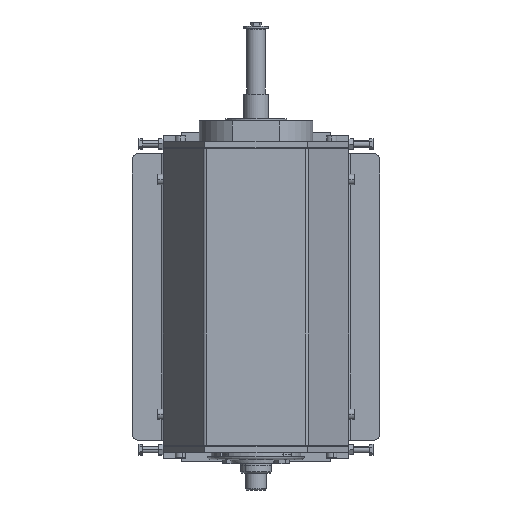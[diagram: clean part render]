
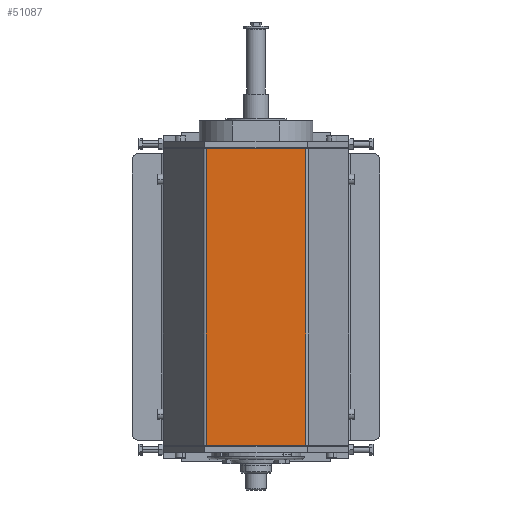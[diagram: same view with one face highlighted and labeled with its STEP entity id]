
A CAD part, front view. The second image highlights one B-rep face of the part: STEP entity #51087.
In plain terms, the highlighted planar face has unit normal (0, -1, 0).
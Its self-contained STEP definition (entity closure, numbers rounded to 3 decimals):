
#68 = EDGE_CURVE ( 'NONE', #2786, #48537, #15535, .T. ) ;
#2234 = VECTOR ( 'NONE', #21274, 1000. ) ;
#2736 = ORIENTED_EDGE ( 'NONE', *, *, #68, .F. ) ;
#2786 = VERTEX_POINT ( 'NONE', #11805 ) ;
#3167 = LINE ( 'NONE', #8049, #54488 ) ;
#5925 = CARTESIAN_POINT ( 'NONE',  ( -50., 0., 144. ) ) ;
#7399 = DIRECTION ( 'NONE',  ( 0., 0., -1. ) ) ;
#7948 = VERTEX_POINT ( 'NONE', #17543 ) ;
#8049 = CARTESIAN_POINT ( 'NONE',  ( 48.268, 0., 144. ) ) ;
#9129 = EDGE_CURVE ( 'NONE', #48537, #7948, #3167, .T. ) ;
#10954 = DIRECTION ( 'NONE',  ( 0., 0., 1. ) ) ;
#11805 = CARTESIAN_POINT ( 'NONE',  ( -48.268, 0., 144. ) ) ;
#14076 = ORIENTED_EDGE ( 'NONE', *, *, #46445, .T. ) ;
#15535 = LINE ( 'NONE', #21623, #2234 ) ;
#16078 = AXIS2_PLACEMENT_3D ( 'NONE', #5925, #40756, #10954 ) ;
#16111 = ORIENTED_EDGE ( 'NONE', *, *, #45788, .T. ) ;
#17543 = CARTESIAN_POINT ( 'NONE',  ( 48.268, 0., -144. ) ) ;
#21274 = DIRECTION ( 'NONE',  ( 1., 0., 0. ) ) ;
#21623 = CARTESIAN_POINT ( 'NONE',  ( -50., 0., 144. ) ) ;
#23813 = LINE ( 'NONE', #58666, #33857 ) ;
#24146 = DIRECTION ( 'NONE',  ( 0., 0., -1. ) ) ;
#24317 = ORIENTED_EDGE ( 'NONE', *, *, #9129, .F. ) ;
#24496 = VECTOR ( 'NONE', #44635, 1000. ) ;
#25633 = EDGE_LOOP ( 'NONE', ( #14076, #24317, #2736, #16111 ) ) ;
#29685 = CARTESIAN_POINT ( 'NONE',  ( -50., 0., -144. ) ) ;
#33857 = VECTOR ( 'NONE', #24146, 1000. ) ;
#34892 = FACE_OUTER_BOUND ( 'NONE', #25633, .T. ) ;
#37663 = LINE ( 'NONE', #29685, #24496 ) ;
#38290 = CARTESIAN_POINT ( 'NONE',  ( -48.268, 0., -144. ) ) ;
#40212 = VERTEX_POINT ( 'NONE', #38290 ) ;
#40756 = DIRECTION ( 'NONE',  ( 0., 1., 0. ) ) ;
#44635 = DIRECTION ( 'NONE',  ( 1., 0., 0. ) ) ;
#45788 = EDGE_CURVE ( 'NONE', #2786, #40212, #23813, .T. ) ;
#46445 = EDGE_CURVE ( 'NONE', #40212, #7948, #37663, .T. ) ;
#48537 = VERTEX_POINT ( 'NONE', #62268 ) ;
#50503 = PLANE ( 'NONE',  #16078 ) ;
#51087 = ADVANCED_FACE ( 'NONE', ( #34892 ), #50503, .F. ) ;
#54488 = VECTOR ( 'NONE', #7399, 1000. ) ;
#58666 = CARTESIAN_POINT ( 'NONE',  ( -48.268, 0., 144. ) ) ;
#62268 = CARTESIAN_POINT ( 'NONE',  ( 48.268, 0., 144. ) ) ;
